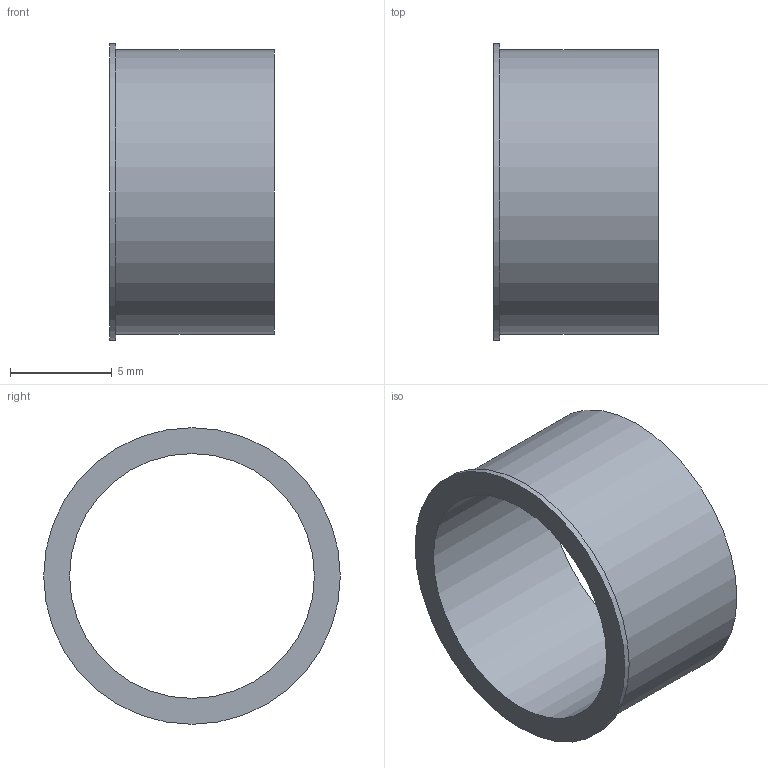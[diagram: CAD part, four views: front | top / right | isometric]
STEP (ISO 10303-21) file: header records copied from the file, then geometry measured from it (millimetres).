
FILE_DESCRIPTION(('Open CASCADE Model'),'2;1');
FILE_NAME('B3_R12_12x14_flanged_plain_bush','2026-09-28T18:33:50',( 'Author'),('Open CASCADE'),'Open CASCADE STEP processor 7.9', 'build123d','Unknown');
FILE_SCHEMA(('AUTOMOTIVE_DESIGN { 1 0 10303 214 1 1 1 1 }'));
Length unit declared in the file: millimetre
Products named in the file (1): B3_R12_12x14_flanged_plain_bush
Bounding box: 8.1 x 14.6 x 14.6 mm (x, y, z)
Volume: 327.2 mm3; surface area: 770.2 mm2
Topology: 1 solids, 1 shells, 6 faces, 9 edges, 6 vertices
Faces by surface type: cylinder 3, plane 3
Full cylindrical faces by diameter (mm): 12.05 x1, 14 x1, 14.6 x1
Entity records: 281 total; most frequent: DIRECTION 47, CARTESIAN_POINT 40, ORIENTED_EDGE 18, PCURVE 18, DEFINITIONAL_REPRESENTATION 18, LINE 15, VECTOR 15, AXIS2_PLACEMENT_3D 13
